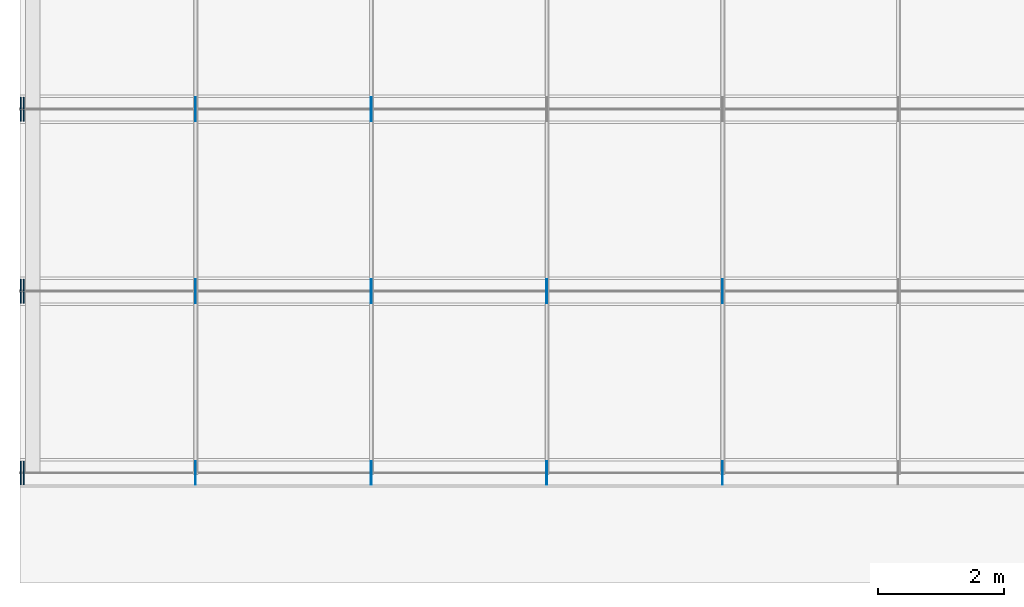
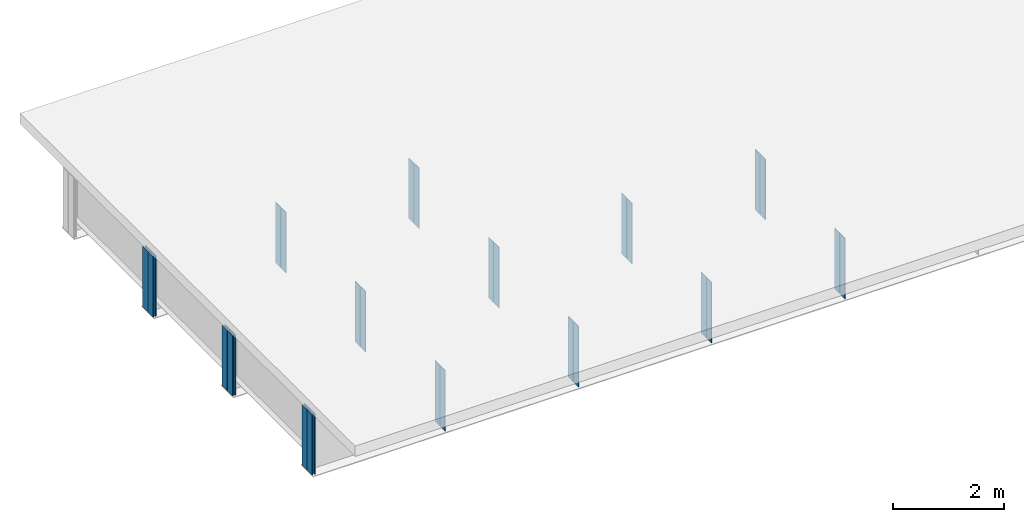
# One storey, part 2 of 10: 32 plates.
"""IFC4 building model written with IfcOpenShell, lengths in metres."""

from ifc_helpers import new_model, si_unit, frame, origin, origin_with_axes, origin_2d_with_axis, place, context, subcontext, project, spatial, rectangle, extrude, element, save


model = new_model("IFC4")

# Units and contexts
model_context = context("Model", 3, precision=1e-05, world=origin())
body_context = subcontext(model_context, "Body", "Model", "MODEL_VIEW")
ifc_project = project(units=[si_unit("LENGTHUNIT", "METRE"), si_unit("AREAUNIT", "SQUARE_METRE"), si_unit("VOLUMEUNIT", "CUBIC_METRE"), si_unit("PLANEANGLEUNIT", "RADIAN")], contexts=[model_context])

# Site, building, storey
site_placement = place(None, origin_with_axes())
site = spatial("IfcSite", under=ifc_project, at=site_placement, Name="Default Site")
building_placement = place(site_placement, origin_with_axes())
building = spatial("IfcBuilding", under=site, at=building_placement, Name="Bridge Structure")
storey_placement = place(building_placement, origin_with_axes())
storey = spatial("IfcBuildingStorey", under=building, at=storey_placement, Name="Superstructure")

# Plates
for number, where, z_axis, x_axis, name in (
    (1, (2.777, -4.21575, -0.6685), (0.0, 0.0, 1.0), (1.0, 0.0, 0.0), "Intermediate Stiffener 1"),
    (2, (2.777, -4.40925, -0.6685), (0.0, 0.0, 1.0), (1.0, 0.0, 0.0), "Intermediate Stiffener 1"),
    (3, (5.554, -4.21575, -0.6685), (0.0, 0.0, 1.0), (1.0, 0.0, 0.0), "Intermediate Stiffener 1"),
    (4, (5.554, -4.40925, -0.6685), (0.0, 0.0, 1.0), (1.0, 0.0, 0.0), "Intermediate Stiffener 1"),
    (5, (8.331, -4.21575, -0.6685), (0.0, 0.0, 1.0), (1.0, 0.0, 0.0), "Intermediate Stiffener 1"),
    (6, (8.331, -4.40925, -0.6685), (0.0, 0.0, 1.0), (1.0, 0.0, 0.0), "Intermediate Stiffener 1"),
    (7, (11.108, -4.21575, -0.6685), (0.0, 0.0, 1.0), (1.0, 0.0, 0.0), "Intermediate Stiffener 1"),
    (8, (11.108, -4.40925, -0.6685), (0.0, 0.0, 1.0), (1.0, 0.0, 0.0), "Intermediate Stiffener 1"),
):
    element("IfcPlate", number, at=place(storey_placement, frame(where, z_axis=z_axis, x_axis=x_axis)), inside=storey, Name=name, context=body_context, shape_type="SweptSolid", body=[
        extrude(rectangle(XDim=0.012, YDim=0.1815, at=origin_2d_with_axis()), origin_with_axes(), (0.0, 0.0, 1.0), 1.337),
    ])
for number, where, z_axis, x_axis, name in (
    (9, (0.01, -4.21575, -0.6685), (0.0, 0.0, 1.0), (1.0, 0.0, 0.0), "End Stiffener 1"),
    (10, (0.01, -4.40925, -0.6685), (0.0, 0.0, 1.0), (1.0, 0.0, 0.0), "End Stiffener 1"),
    (11, (0.06, -4.21575, -0.6685), (0.0, 0.0, 1.0), (1.0, 0.0, 0.0), "End Stiffener 1"),
    (12, (0.06, -4.40925, -0.6685), (0.0, 0.0, 1.0), (1.0, 0.0, 0.0), "End Stiffener 1"),
):
    element("IfcPlate", number, at=place(storey_placement, frame(where, z_axis=z_axis, x_axis=x_axis)), inside=storey, Name=name, context=body_context, shape_type="SweptSolid", body=[
        extrude(rectangle(XDim=0.02, YDim=0.1815, at=origin_2d_with_axis()), origin_with_axes(), (0.0, 0.0, 1.0), 1.337),
    ])
for number, where, z_axis, x_axis, name in (
    (13, (2.777, -1.34075, -0.6685), (0.0, 0.0, 1.0), (1.0, 0.0, 0.0), "Intermediate Stiffener 2"),
    (14, (2.777, -1.5342500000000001, -0.6685), (0.0, 0.0, 1.0), (1.0, 0.0, 0.0), "Intermediate Stiffener 2"),
    (15, (5.554, -1.34075, -0.6685), (0.0, 0.0, 1.0), (1.0, 0.0, 0.0), "Intermediate Stiffener 2"),
    (16, (5.554, -1.5342500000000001, -0.6685), (0.0, 0.0, 1.0), (1.0, 0.0, 0.0), "Intermediate Stiffener 2"),
    (17, (8.331, -1.34075, -0.6685), (0.0, 0.0, 1.0), (1.0, 0.0, 0.0), "Intermediate Stiffener 2"),
    (18, (8.331, -1.5342500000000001, -0.6685), (0.0, 0.0, 1.0), (1.0, 0.0, 0.0), "Intermediate Stiffener 2"),
    (19, (11.108, -1.34075, -0.6685), (0.0, 0.0, 1.0), (1.0, 0.0, 0.0), "Intermediate Stiffener 2"),
    (20, (11.108, -1.5342500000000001, -0.6685), (0.0, 0.0, 1.0), (1.0, 0.0, 0.0), "Intermediate Stiffener 2"),
):
    element("IfcPlate", number, at=place(storey_placement, frame(where, z_axis=z_axis, x_axis=x_axis)), inside=storey, Name=name, context=body_context, shape_type="SweptSolid", body=[
        extrude(rectangle(XDim=0.012, YDim=0.1815, at=origin_2d_with_axis()), origin_with_axes(), (0.0, 0.0, 1.0), 1.337),
    ])
for number, where, z_axis, x_axis, name in (
    (21, (0.01, -1.34075, -0.6685), (0.0, 0.0, 1.0), (1.0, 0.0, 0.0), "End Stiffener 2"),
    (22, (0.01, -1.5342500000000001, -0.6685), (0.0, 0.0, 1.0), (1.0, 0.0, 0.0), "End Stiffener 2"),
    (23, (0.06, -1.34075, -0.6685), (0.0, 0.0, 1.0), (1.0, 0.0, 0.0), "End Stiffener 2"),
    (24, (0.06, -1.5342500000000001, -0.6685), (0.0, 0.0, 1.0), (1.0, 0.0, 0.0), "End Stiffener 2"),
):
    element("IfcPlate", number, at=place(storey_placement, frame(where, z_axis=z_axis, x_axis=x_axis)), inside=storey, Name=name, context=body_context, shape_type="SweptSolid", body=[
        extrude(rectangle(XDim=0.02, YDim=0.1815, at=origin_2d_with_axis()), origin_with_axes(), (0.0, 0.0, 1.0), 1.337),
    ])
for number, where, z_axis, x_axis, name in (
    (25, (2.777, 1.5342500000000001, -0.6685), (0.0, 0.0, 1.0), (1.0, 0.0, 0.0), "Intermediate Stiffener 3"),
    (26, (2.777, 1.34075, -0.6685), (0.0, 0.0, 1.0), (1.0, 0.0, 0.0), "Intermediate Stiffener 3"),
    (27, (5.554, 1.5342500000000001, -0.6685), (0.0, 0.0, 1.0), (1.0, 0.0, 0.0), "Intermediate Stiffener 3"),
    (28, (5.554, 1.34075, -0.6685), (0.0, 0.0, 1.0), (1.0, 0.0, 0.0), "Intermediate Stiffener 3"),
):
    element("IfcPlate", number, at=place(storey_placement, frame(where, z_axis=z_axis, x_axis=x_axis)), inside=storey, Name=name, context=body_context, shape_type="SweptSolid", body=[
        extrude(rectangle(XDim=0.012, YDim=0.1815, at=origin_2d_with_axis()), origin_with_axes(), (0.0, 0.0, 1.0), 1.337),
    ])
for number, where, z_axis, x_axis, name in (
    (29, (0.01, 1.5342500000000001, -0.6685), (0.0, 0.0, 1.0), (1.0, 0.0, 0.0), "End Stiffener 3"),
    (30, (0.01, 1.34075, -0.6685), (0.0, 0.0, 1.0), (1.0, 0.0, 0.0), "End Stiffener 3"),
    (31, (0.06, 1.5342500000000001, -0.6685), (0.0, 0.0, 1.0), (1.0, 0.0, 0.0), "End Stiffener 3"),
    (32, (0.06, 1.34075, -0.6685), (0.0, 0.0, 1.0), (1.0, 0.0, 0.0), "End Stiffener 3"),
):
    element("IfcPlate", number, at=place(storey_placement, frame(where, z_axis=z_axis, x_axis=x_axis)), inside=storey, Name=name, context=body_context, shape_type="SweptSolid", body=[
        extrude(rectangle(XDim=0.02, YDim=0.1815, at=origin_2d_with_axis()), origin_with_axes(), (0.0, 0.0, 1.0), 1.337),
    ])

save(model, "model.ifc")
